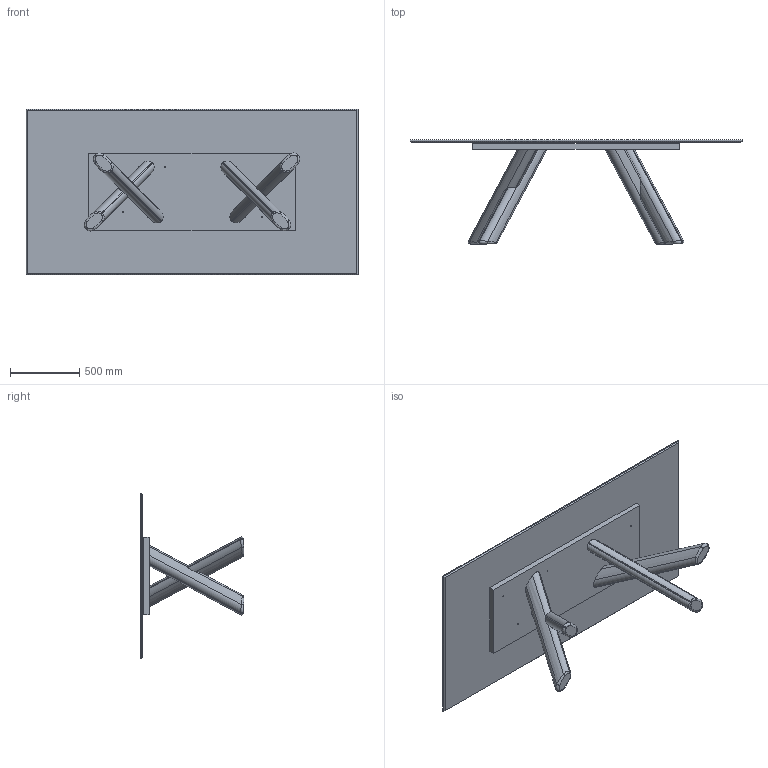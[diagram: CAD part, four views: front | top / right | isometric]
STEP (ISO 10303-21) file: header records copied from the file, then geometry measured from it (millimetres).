
FILE_DESCRIPTION (( 'STEP AP203' ), '1' );
FILE_NAME ('CN22C_CANOVA_top ceramica 239x119x75h.STEP', '2025-04-15T07:04:57', ( '' ), ( '' ), 'SwSTEP 2.0', 'SolidWorks 2022', '' );
FILE_SCHEMA (( 'CONFIG_CONTROL_DESIGN' ));
Length unit declared in the file: millimetre
Products named in the file (5): CAMP_00058-00-Gamba in legno Interna_leggero; CN22C_CANOVA_top ceramica 239x119x75h; PIANI_modello 3D x web_Ceramica 239x119; CAMP_00057-00-Gamba in legno Esterna_leggero; CAMP_00056-00-Assieme Basamento con gambe in legno incrociate_leggero
Assembly tree (5 placements, depth 3):
  CN22C_CANOVA_top ceramica 239x119x75h
    PIANI_modello 3D x web_Ceramica 239x119
    CAMP_00056-00-Assieme Basamento con gambe in legno incrociate_leggero  x2
      CAMP_00057-00-Gamba in legno Esterna_leggero
      CAMP_00058-00-Gamba in legno Interna_leggero
Bounding box: 2390 x 748 x 1190 mm (x, y, z)
Volume: 116756181.8 mm3; surface area: 9062334 mm2
Topology: 6 solids, 6 shells, 164 faces, 394 edges, 248 vertices
Faces by surface type: cylinder 90, bspline 36, plane 30, cone 8
Entity records: 4304 total; most frequent: CARTESIAN_POINT 1588, ORIENTED_EDGE 486, DIRECTION 421, EDGE_CURVE 243, AXIS2_PLACEMENT_3D 165, VERTEX_POINT 154, EDGE_LOOP 123, ADVANCED_FACE 100
